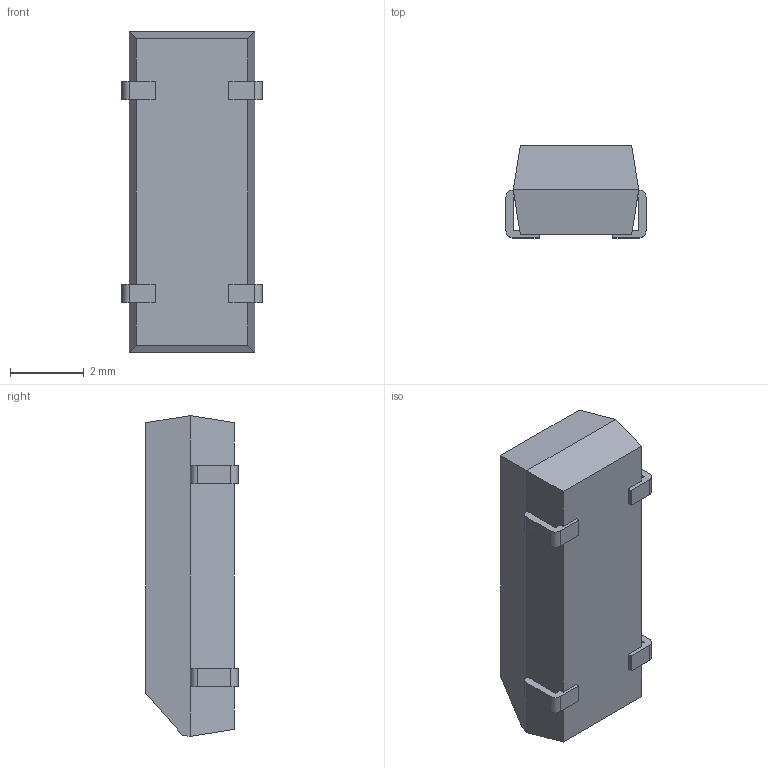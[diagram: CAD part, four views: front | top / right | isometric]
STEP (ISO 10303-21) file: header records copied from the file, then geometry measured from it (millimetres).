
FILE_DESCRIPTION (( 'STEP AP214' ), '1' );
FILE_NAME ('KX-327S.STEP', '2013-04-02T12:02:04', ( 'Tester2' ), ( '' ), 'SwSTEP 2.0', 'SolidWorks 2012', '' );
FILE_SCHEMA (( 'AUTOMOTIVE_DESIGN' ));
Length unit declared in the file: millimetre
Products named in the file (1): KX-327S
Bounding box: 3.8 x 2.5 x 8.7 mm (x, y, z)
Volume: 64.6 mm3; surface area: 113.4 mm2
Topology: 1 solids, 1 shells, 54 faces, 165 edges, 106 vertices
Faces by surface type: plane 44, cylinder 8, cone 2
Entity records: 2303 total; most frequent: ORIENTED_EDGE 330, CARTESIAN_POINT 326, DIRECTION 295, EDGE_CURVE 165, LINE 145, VECTOR 145, VERTEX_POINT 106, AXIS2_PLACEMENT_3D 75
